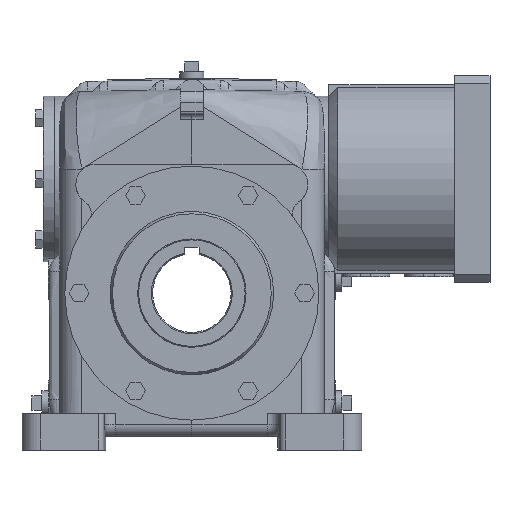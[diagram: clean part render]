
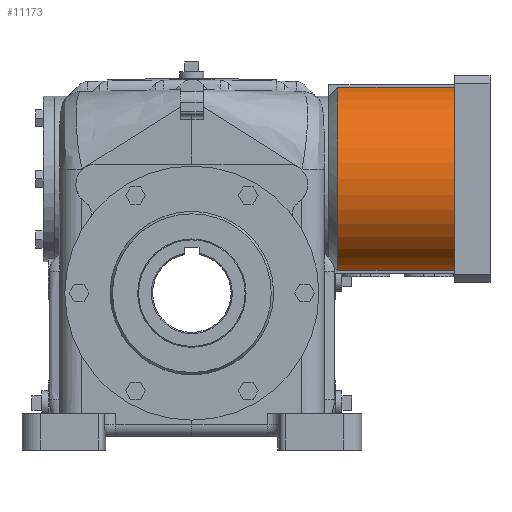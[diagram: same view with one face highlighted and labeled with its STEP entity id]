
A CAD part, front view. The second image highlights one B-rep face of the part: STEP entity #11173.
In plain terms, the highlighted cylindrical face has radius 104.775 mm (diameter 209.55 mm), a partial arc.
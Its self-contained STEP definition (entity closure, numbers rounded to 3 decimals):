
#233=CYLINDRICAL_SURFACE('',#13691,104.775);
#1581=LINE('',#30281,#2445);
#1585=LINE('',#30288,#2449);
#2445=VECTOR('',#16271,1000.);
#2449=VECTOR('',#16281,1000.);
#5459=ORIENTED_EDGE('',*,*,#7078,.F.);
#5460=ORIENTED_EDGE('',*,*,#7118,.F.);
#5461=ORIENTED_EDGE('',*,*,#7094,.T.);
#5462=ORIENTED_EDGE('',*,*,#7122,.T.);
#7078=EDGE_CURVE('',#8193,#8194,#8512,.T.);
#7094=EDGE_CURVE('',#8209,#8208,#8519,.T.);
#7118=EDGE_CURVE('',#8209,#8193,#1581,.T.);
#7122=EDGE_CURVE('',#8208,#8194,#1585,.T.);
#8193=VERTEX_POINT('',#30185);
#8194=VERTEX_POINT('',#30187);
#8208=VERTEX_POINT('',#30224);
#8209=VERTEX_POINT('',#30226);
#8512=CIRCLE('',#13657,104.775);
#8519=CIRCLE('',#13669,104.775);
#9296=EDGE_LOOP('',(#5459,#5460,#5461,#5462));
#10115=FACE_BOUND('',#9296,.T.);
#11173=ADVANCED_FACE('',(#10115),#233,.T.);
#13657=AXIS2_PLACEMENT_3D('',#30186,#16188,#16189);
#13669=AXIS2_PLACEMENT_3D('',#30225,#16220,#16221);
#13691=AXIS2_PLACEMENT_3D('',#30290,#16284,#16285);
#16188=DIRECTION('',(1.,0.,0.));
#16189=DIRECTION('',(0.,0.,-1.));
#16220=DIRECTION('',(1.,0.,0.));
#16221=DIRECTION('',(0.,0.,-1.));
#16271=DIRECTION('',(1.,0.,0.));
#16281=DIRECTION('',(1.,0.,0.));
#16284=DIRECTION('',(1.,0.,0.));
#16285=DIRECTION('',(0.,0.,-1.));
#30185=CARTESIAN_POINT('',(139.852,-24.875,101.779));
#30186=CARTESIAN_POINT('',(139.852,0.,0.));
#30187=CARTESIAN_POINT('',(139.852,-24.868,-101.781));
#30224=CARTESIAN_POINT('',(9.804,-24.868,-101.781));
#30225=CARTESIAN_POINT('',(9.804,0.,0.));
#30226=CARTESIAN_POINT('',(9.804,-24.875,101.779));
#30281=CARTESIAN_POINT('',(122.103,-24.875,101.779));
#30288=CARTESIAN_POINT('',(122.103,-24.868,-101.781));
#30290=CARTESIAN_POINT('',(122.103,0.,0.));
